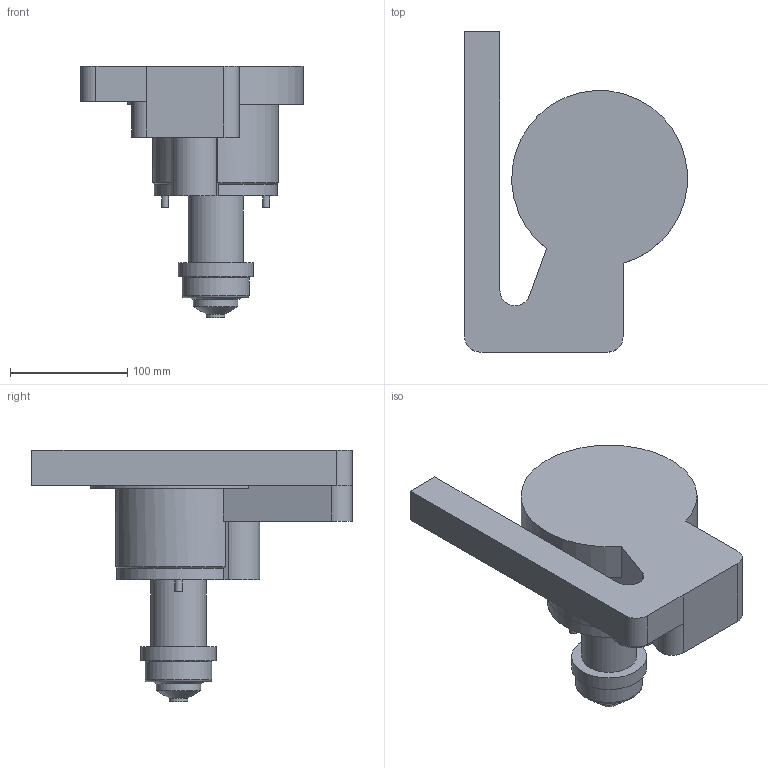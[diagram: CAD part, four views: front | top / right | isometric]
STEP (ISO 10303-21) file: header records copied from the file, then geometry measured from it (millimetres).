
FILE_DESCRIPTION( ( 'STEP AP214' ), '1' );
FILE_NAME( 'S:/PROIECTE_YUDO_2009_dupa_1.07.2009/PROIECTE YUDO 3D 01.07.2009/SAS/YUEU09-SAS32LVF182_3/YUEU09-SAS32LVF182_cutout.step', '2009-08-25T08:47:35', ( ' ' ), ( ' ' ), 'XStep 1.0', ' ', ' ' );
FILE_SCHEMA( ( 'automotive_design' ) );
Length unit declared in the file: millimetre
Products named in the file (1): 1
Bounding box: 189.74 x 273 x 214.5 mm (x, y, z)
Volume: 2188041.9 mm3; surface area: 155553.6 mm2
Topology: 1 solids, 1 shells, 40 faces, 91 edges, 59 vertices
Faces by surface type: plane 20, cylinder 15, cone 4, torus 1
Full cylindrical faces by diameter (mm): 6 x2, 16 x1, 38 x1, 47 x1, 57 x1, 64 x1
Entity records: 1404 total; most frequent: DIRECTION 194, CARTESIAN_POINT 184, ORIENTED_EDGE 158, EDGE_CURVE 79, AXIS2_PLACEMENT_3D 76, VERTEX_POINT 58, EDGE_LOOP 57, FACE_OUTER_BOUND 48
